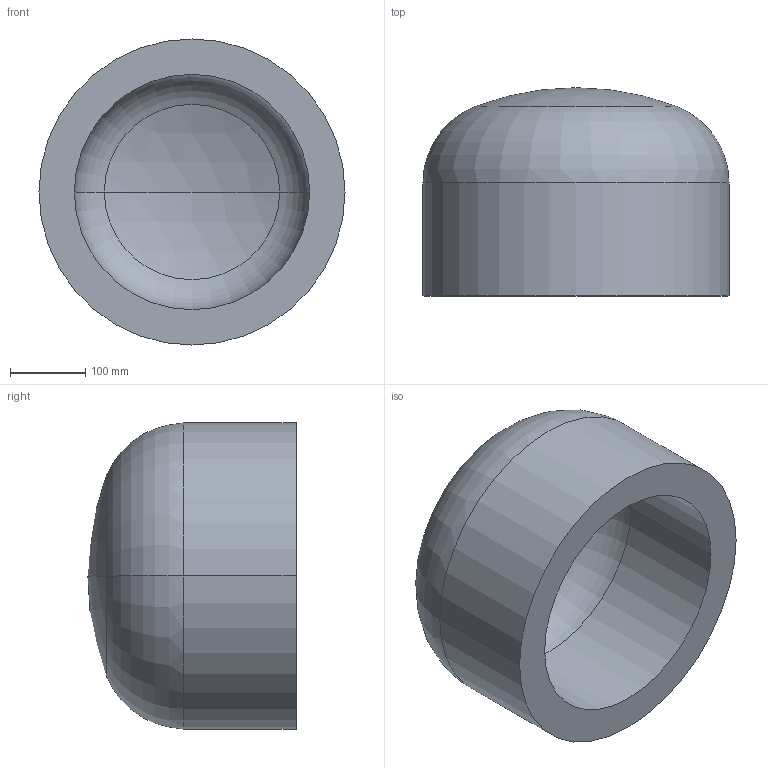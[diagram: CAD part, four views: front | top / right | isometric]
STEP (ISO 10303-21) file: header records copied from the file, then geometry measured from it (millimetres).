
FILE_DESCRIPTION (( 'STEP AP203' ), '1' );
FILE_NAME ('DIN 28013 Korbbogenform_-_Boden DIN 28013 - 406,4 x 150 - I - s=47.step', '2016-07-01T07:51:22', ( '' ), ( '' ), 'SwSTEP 2.0', 'SolidWorks 2013', '' );
FILE_SCHEMA (( 'CONFIG_CONTROL_DESIGN' ));
Length unit declared in the file: millimetre
Products named in the file (1): DIN 28013 Korbbogenform_-_Boden DIN 28013 - 406,4 x 150 - I - s=47
Bounding box: 406.4 x 276.45 x 406.4 mm (x, y, z)
Volume: 15274354.4 mm3; surface area: 707666.2 mm2
Topology: 1 solids, 1 shells, 13 faces, 24 edges, 14 vertices
Faces by surface type: torus 4, cylinder 4, sphere 4, plane 1
Entity records: 407 total; most frequent: DIRECTION 72, CARTESIAN_POINT 52, ORIENTED_EDGE 48, AXIS2_PLACEMENT_3D 34, EDGE_CURVE 24, CIRCLE 20, VERTEX_POINT 14, EDGE_LOOP 14
